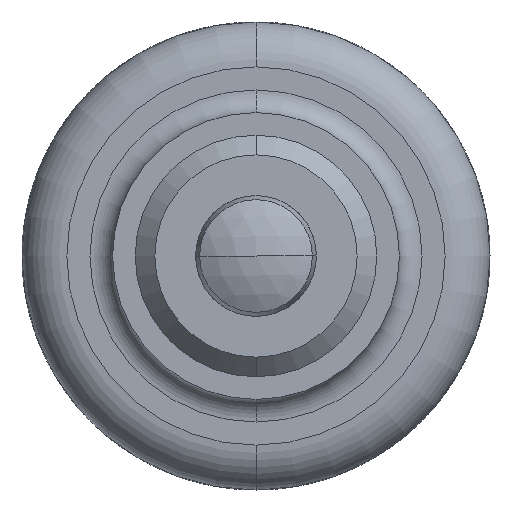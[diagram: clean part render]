
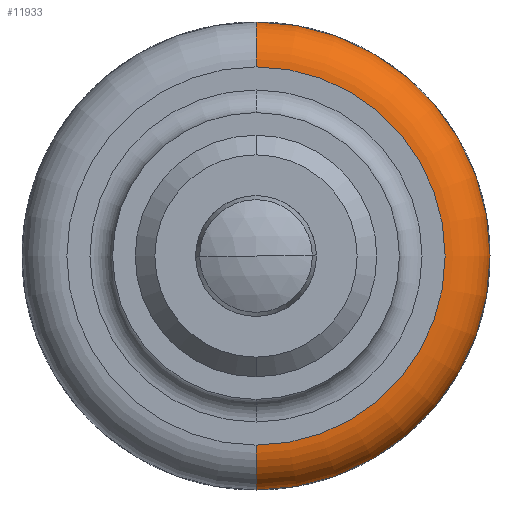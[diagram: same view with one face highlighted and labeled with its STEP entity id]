
A CAD part, front view. The second image highlights one B-rep face of the part: STEP entity #11933.
In plain terms, the highlighted toroidal (fillet/blend) face has major radius 12.53 mm and minor radius 2.97 mm.
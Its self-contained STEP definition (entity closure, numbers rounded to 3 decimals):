
#9207 = CARTESIAN_POINT ( 'NONE',  ( 0., 18.09, 12.53 ) ) ;
#9333 = CARTESIAN_POINT ( 'NONE',  ( 0., 18.09, -12.53 ) ) ;
#9801 = DIRECTION ( 'NONE',  ( 0., 0., 1. ) ) ;
#9802 = DIRECTION ( 'NONE',  ( 0., -1., 0. ) ) ;
#9803 = CARTESIAN_POINT ( 'NONE',  ( 0., 18.09, 0. ) ) ;
#9804 = AXIS2_PLACEMENT_3D ( 'NONE', #9803, #9802, #9801 ) ;
#9805 = CIRCLE ( 'NONE', #9804, 12.53 ) ;
#9864 = CARTESIAN_POINT ( 'NONE',  ( 0., 21.06, 0. ) ) ;
#9865 = TOROIDAL_SURFACE ( 'NONE', #9926, 12.53, 2.97 ) ;
#9866 = FACE_OUTER_BOUND ( 'NONE', #11848, .T. ) ;
#9906 = CARTESIAN_POINT ( 'NONE',  ( 0., 21.06, -15.5 ) ) ;
#9924 = DIRECTION ( 'NONE',  ( 0., 0., 1. ) ) ;
#9925 = DIRECTION ( 'NONE',  ( 0., 1., 0. ) ) ;
#9926 = AXIS2_PLACEMENT_3D ( 'NONE', #9864, #9925, #9924 ) ;
#10002 = DIRECTION ( 'NONE',  ( 0., 0., 1. ) ) ;
#10003 = DIRECTION ( 'NONE',  ( 0., 1., 0. ) ) ;
#10004 = CARTESIAN_POINT ( 'NONE',  ( 0., 21.06, 0. ) ) ;
#10005 = AXIS2_PLACEMENT_3D ( 'NONE', #10004, #10003, #10002 ) ;
#10006 = CIRCLE ( 'NONE', #10005, 15.5 ) ;
#10007 = CARTESIAN_POINT ( 'NONE',  ( 0., 21.06, 15.5 ) ) ;
#10014 = DIRECTION ( 'NONE',  ( 0., 0., 1. ) ) ;
#10015 = DIRECTION ( 'NONE',  ( -1., 0., 0. ) ) ;
#10016 = CARTESIAN_POINT ( 'NONE',  ( 0., 21.06, 12.53 ) ) ;
#10017 = AXIS2_PLACEMENT_3D ( 'NONE', #10016, #10015, #10014 ) ;
#10018 = CIRCLE ( 'NONE', #10017, 2.97 ) ;
#10027 = DIRECTION ( 'NONE',  ( 0., 0., -1. ) ) ;
#10028 = DIRECTION ( 'NONE',  ( 1., 0., 0. ) ) ;
#10029 = CARTESIAN_POINT ( 'NONE',  ( 0., 21.06, -12.53 ) ) ;
#10030 = AXIS2_PLACEMENT_3D ( 'NONE', #10029, #10028, #10027 ) ;
#10031 = CIRCLE ( 'NONE', #10030, 2.97 ) ;
#11549 = ORIENTED_EDGE ( 'NONE', *, *, #12017, .T. ) ;
#11553 = VERTEX_POINT ( 'NONE', #9207 ) ;
#11602 = VERTEX_POINT ( 'NONE', #9333 ) ;
#11848 = EDGE_LOOP ( 'NONE', ( #11852, #11549, #11946, #12002 ) ) ;
#11852 = ORIENTED_EDGE ( 'NONE', *, *, #11904, .F. ) ;
#11904 = EDGE_CURVE ( 'NONE', #11602, #11553, #9805, .T. ) ;
#11933 = ADVANCED_FACE ( 'NONE', ( #9866 ), #9865, .T. ) ;
#11946 = ORIENTED_EDGE ( 'NONE', *, *, #12003, .F. ) ;
#11948 = VERTEX_POINT ( 'NONE', #9906 ) ;
#11998 = EDGE_CURVE ( 'NONE', #11553, #12001, #10018, .T. ) ;
#12001 = VERTEX_POINT ( 'NONE', #10007 ) ;
#12002 = ORIENTED_EDGE ( 'NONE', *, *, #11998, .F. ) ;
#12003 = EDGE_CURVE ( 'NONE', #12001, #11948, #10006, .T. ) ;
#12017 = EDGE_CURVE ( 'NONE', #11602, #11948, #10031, .T. ) ;
